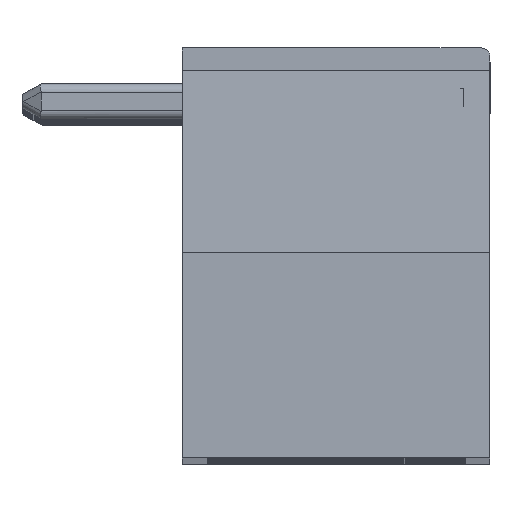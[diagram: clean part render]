
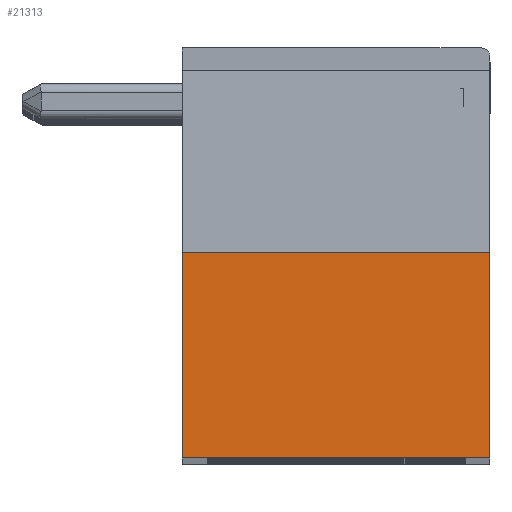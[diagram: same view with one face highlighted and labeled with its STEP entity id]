
A CAD part, top view. The second image highlights one B-rep face of the part: STEP entity #21313.
In plain terms, the highlighted planar face has unit normal (0, 0, 1).
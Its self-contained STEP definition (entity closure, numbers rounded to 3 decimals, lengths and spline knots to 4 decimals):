
#21204 = VERTEX_POINT ( 'NONE', #53548 ) ;
#21208 = EDGE_CURVE ( 'NONE', #21210, #21204, #53542, .T. ) ;
#21210 = VERTEX_POINT ( 'NONE', #53534 ) ;
#21313 = ADVANCED_FACE ( 'NONE', ( #53957 ), #54087, .T. ) ;
#21315 = EDGE_LOOP ( 'NONE', ( #21317, #21323, #21325, #21330 ) ) ;
#21317 = ORIENTED_EDGE ( 'NONE', *, *, #21319, .F. ) ;
#21319 = EDGE_CURVE ( 'NONE', #21210, #21320, #54061, .T. ) ;
#21320 = VERTEX_POINT ( 'NONE', #54069 ) ;
#21323 = ORIENTED_EDGE ( 'NONE', *, *, #21208, .T. ) ;
#21325 = ORIENTED_EDGE ( 'NONE', *, *, #21326, .F. ) ;
#21326 = EDGE_CURVE ( 'NONE', #21328, #21204, #54035, .T. ) ;
#21328 = VERTEX_POINT ( 'NONE', #54028 ) ;
#21330 = ORIENTED_EDGE ( 'NONE', *, *, #21332, .F. ) ;
#21332 = EDGE_CURVE ( 'NONE', #21320, #21328, #54154, .T. ) ;
#53534 = CARTESIAN_POINT ( 'NONE',  ( 6.9, -4.6, 0. ) ) ;
#53537 = DIRECTION ( 'NONE',  ( -1., 0., 0. ) ) ;
#53539 = VECTOR ( 'NONE', #53537, 1000. ) ;
#53540 = CARTESIAN_POINT ( 'NONE',  ( 3.45, -4.6, 0. ) ) ;
#53542 = LINE ( 'NONE', #53540, #53539 ) ;
#53548 = CARTESIAN_POINT ( 'NONE',  ( 0., -4.6, 0. ) ) ;
#53957 = FACE_OUTER_BOUND ( 'NONE', #21315, .T. ) ;
#54028 = CARTESIAN_POINT ( 'NONE',  ( 0., -9.2, 0. ) ) ;
#54030 = DIRECTION ( 'NONE',  ( 0., 1., 0. ) ) ;
#54032 = VECTOR ( 'NONE', #54030, 1000. ) ;
#54034 = CARTESIAN_POINT ( 'NONE',  ( 0., -4.6, 0. ) ) ;
#54035 = LINE ( 'NONE', #54034, #54032 ) ;
#54050 = CARTESIAN_POINT ( 'NONE',  ( 6.9, -9.2, 0. ) ) ;
#54052 = CARTESIAN_POINT ( 'NONE',  ( 6.9, -7.6667, 0. ) ) ;
#54054 = CARTESIAN_POINT ( 'NONE',  ( 6.9, -6.1333, 0. ) ) ;
#54056 = CARTESIAN_POINT ( 'NONE',  ( 6.9, -4.6, 0. ) ) ;
#54061 = B_SPLINE_CURVE_WITH_KNOTS ( 'NONE', 3,
 ( #54056, #54054, #54052, #54050 ),
 .UNSPECIFIED., .F., .F.,
 ( 4, 4 ),
 ( 0., 1. ),
 .UNSPECIFIED. ) ;
#54069 = CARTESIAN_POINT ( 'NONE',  ( 6.9, -9.2, 0. ) ) ;
#54082 = DIRECTION ( 'NONE',  ( 1., 0., 0. ) ) ;
#54083 = DIRECTION ( 'NONE',  ( 0., 0., 1. ) ) ;
#54085 = CARTESIAN_POINT ( 'NONE',  ( 0., -9.2, 0. ) ) ;
#54086 = AXIS2_PLACEMENT_3D ( 'NONE', #54085, #54083, #54082 ) ;
#54087 = PLANE ( 'NONE',  #54086 ) ;
#54141 = CARTESIAN_POINT ( 'NONE',  ( 0., -9.2, 0. ) ) ;
#54143 = CARTESIAN_POINT ( 'NONE',  ( 2.3, -9.2, 0. ) ) ;
#54144 = CARTESIAN_POINT ( 'NONE',  ( 4.6, -9.2, 0. ) ) ;
#54146 = CARTESIAN_POINT ( 'NONE',  ( 6.9, -9.2, 0. ) ) ;
#54154 = B_SPLINE_CURVE_WITH_KNOTS ( 'NONE', 3,
 ( #54146, #54144, #54143, #54141 ),
 .UNSPECIFIED., .F., .F.,
 ( 4, 4 ),
 ( 0., 1. ),
 .UNSPECIFIED. ) ;
